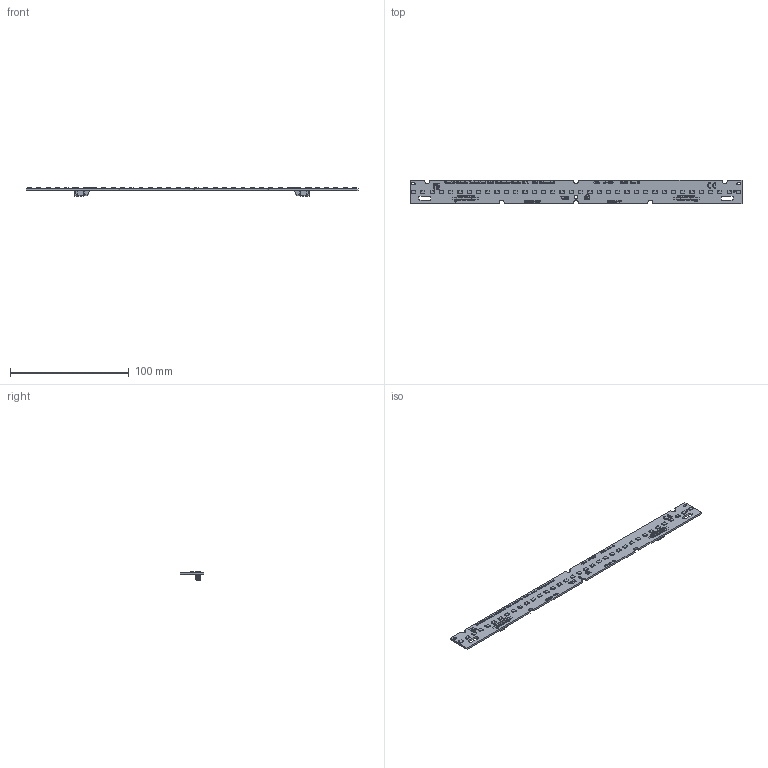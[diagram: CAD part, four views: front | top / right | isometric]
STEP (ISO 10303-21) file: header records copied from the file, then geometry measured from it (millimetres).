
FILE_DESCRIPTION(('Creo Elements/Direct Modeling STEP Export'),'2;1');
FILE_NAME('3D-Model_MLC SC W2_280_36_yzz HE G3_(WU-M-736)_BC.stp','2025-05-08T 9:22:47',(''),(''),'PTC Creo Elements/Direct Modeling STEP processor for AP214 (Solid Model)','PTC Creo Elements/Direct Modeling 19.0E 27-Jun-2016 (C) Parametric Technology GmbH','');
FILE_SCHEMA(('AUTOMOTIVE_DESIGN { 1 0 10303 214 1 1 1 1 }'));
Length unit declared in the file: millimetre
Products named in the file (170): p1; PRINT.97; PRINT.100; PRINT.106; PRINT.87; PRINT.96; PRINT.98; PRINT.104; PRINT.101; PRINT.102; PRINT.99; PRINT.107; PRINT.95; PRINT.90; PRINT.85; PRINT.86; PRINT.103; PRINT.105; PRINT.89; PRINT.93; PRINT.88; PRINT.94; PRINT.92; PRINT.91; PRINT.64; PRINT.67; PRINT.68; PRINT.66; PRINT.62; PRINT.63; PRINT.74; PRINT.65; PRINT.75; PRINT.69; PRINT.71; PRINT.72; PRINT.81; PRINT.82; PRINT.84; PRINT.76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
Assembly tree (164 placements, depth 2):
  p1
  Print
    PRINT.38
    PRINT.37
    PRINT.32
    PRINT.26
    PRINT.27
    PRINT.22
    PRINT.25
    PRINT.33
    PRINT.35
    PRINT.31
    PRINT.23
    PRINT.21
    PRINT.19
    PRINT.29
    PRINT.24
    PRINT.28
    PRINT.34
    PRINT.30
    PRINT.20
    PRINT.36
    PRINT.39
    PRINT.18
    PRINT.6
    PRINT.15
    PRINT.17
    PRINT.14
    PRINT.13
    PRINT.12
    PRINT.16
    PRINT.10
    PRINT.8
    PRINT.11
    PRINT.7
    PRINT.9
    PRINT.122
    PRINT.124
    PRINT.118
    PRINT.125
    PRINT.112
    PRINT.119
    PRINT.115
    PRINT.108
    PRINT.120
    PRINT.123
    PRINT.109
    PRINT.114
    PRINT.110
    PRINT.121
    PRINT.117
    PRINT.111
    PRINT.113
    PRINT.116
    PRINT.50
    PRINT.43
    PRINT.52
    PRINT.49
    PRINT.55
    PRINT.44
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Bounding box: 279 x 20 x 7.4 mm (x, y, z)
Volume: 9061.9 mm3; surface area: 14272.3 mm2
Topology: 165 solids, 165 shells, 6432 faces, 17632 edges, 11618 vertices
Faces by surface type: plane 5000, cylinder 1420, cone 8, bspline 4
Entity records: 137719 total; most frequent: CARTESIAN_POINT 19485, ORIENTED_EDGE 18394, DIRECTION 17906, EDGE_CURVE 9197, VECTOR 7422, LINE 7422, VERTEX_POINT 6123, AXIS2_PLACEMENT_3D 5242
